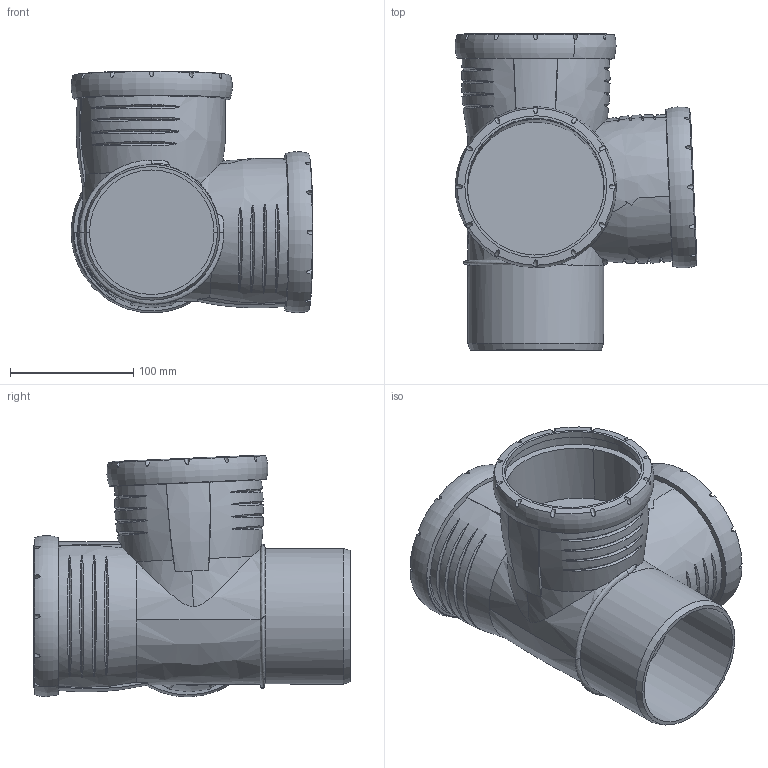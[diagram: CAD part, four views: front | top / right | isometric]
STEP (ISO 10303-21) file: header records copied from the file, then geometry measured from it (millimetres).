
FILE_DESCRIPTION(/* description */ (''),/* implementation_level */ '2;1');
FILE_NAME(/* name */ 'H:\Geberit-Teile\Export\393.559.14.1\stp\393559.stp',/* time_stamp */ '2017-10-19T12:54:39+02:00',/* author */ ('seihe2'),/* organization */ (''),/* preprocessor_version */ 'ST-DEVELOPER v15.2',/* originating_system */ 'Autodesk Inventor 2014',/* authorisation */ '');
FILE_SCHEMA (('AUTOMOTIVE_DESIGN { 1 0 10303 214 3 1 1 }'));
Length unit declared in the file: millimetre
Products named in the file (1): 393559
Bounding box: 196.37 x 256.95 x 196.37 mm (x, y, z)
Volume: 2005568.9 mm3; surface area: 297125.5 mm2
Topology: 1 solids, 1 shells, 213 faces, 563 edges, 371 vertices
Faces by surface type: bspline 156, cone 26, cylinder 15, plane 10, torus 6
Full cylindrical faces by diameter (mm): 101.2 x1, 110.2 x1, 111.3 x3, 121.5 x3
Entity records: 13105 total; most frequent: CARTESIAN_POINT 8783, ORIENTED_EDGE 1056, EDGE_CURVE 528, DIRECTION 522, VERTEX_POINT 358, B_SPLINE_CURVE_WITH_KNOTS 298, EDGE_LOOP 254, AXIS2_PLACEMENT_3D 241
